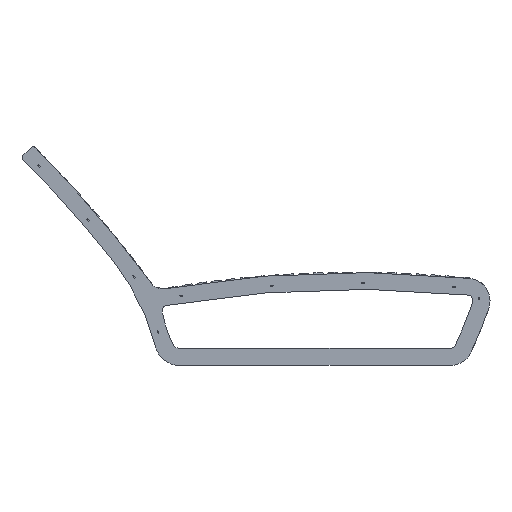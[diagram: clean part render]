
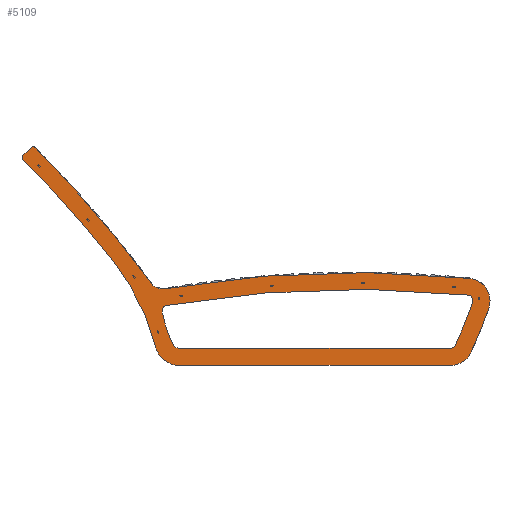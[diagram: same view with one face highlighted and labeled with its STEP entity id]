
A CAD part, left-side view. The second image highlights one B-rep face of the part: STEP entity #5109.
In plain terms, the highlighted planar face has unit normal (-1, 0, 0) as drawn and (0, 0, -1) by its records, which use the part's own axes.
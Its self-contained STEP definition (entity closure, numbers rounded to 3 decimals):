
#343=FACE_BOUND('',#658,.T.);
#347=FACE_OUTER_BOUND('',#657,.T.);
#657=EDGE_LOOP('',(#3403,#3404,#3405,#3406,#3407,#3408,#3409,#3410,#3411,
#3412,#3413,#3414,#3415));
#658=EDGE_LOOP('',(#3416,#3417,#3418,#3419,#3420,#3421,#3422,#3423));
#971=LINE('',#7918,#1455);
#972=LINE('',#7928,#1456);
#973=LINE('',#7947,#1457);
#1455=VECTOR('',#6176,39.095);
#1456=VECTOR('',#6185,948.424);
#1457=VECTOR('',#6204,948.424);
#1939=CIRCLE('',#5532,79.639);
#1940=CIRCLE('',#5533,3960.);
#1941=CIRCLE('',#5534,45.001);
#1942=CIRCLE('',#5535,4085.806);
#1943=CIRCLE('',#5536,10.);
#1944=CIRCLE('',#5537,10.);
#1945=CIRCLE('',#5538,4025.806);
#1946=CIRCLE('',#5539,800.);
#1947=CIRCLE('',#5540,86.764);
#1948=CIRCLE('',#5541,79.721);
#1949=CIRCLE('',#5542,1960.);
#1950=CIRCLE('',#5543,26.764);
#1951=CIRCLE('',#5544,450.);
#1952=CIRCLE('',#5545,20.13);
#1953=CIRCLE('',#5546,3900.);
#1954=CIRCLE('',#5547,19.639);
#1955=CIRCLE('',#5548,1900.);
#1956=CIRCLE('',#5549,19.721);
#2199=VERTEX_POINT('',#7906);
#2200=VERTEX_POINT('',#7907);
#2201=VERTEX_POINT('',#7909);
#2202=VERTEX_POINT('',#7911);
#2203=VERTEX_POINT('',#7913);
#2204=VERTEX_POINT('',#7915);
#2205=VERTEX_POINT('',#7917);
#2206=VERTEX_POINT('',#7919);
#2207=VERTEX_POINT('',#7921);
#2208=VERTEX_POINT('',#7923);
#2209=VERTEX_POINT('',#7925);
#2210=VERTEX_POINT('',#7927);
#2211=VERTEX_POINT('',#7929);
#2212=VERTEX_POINT('',#7932);
#2213=VERTEX_POINT('',#7933);
#2214=VERTEX_POINT('',#7935);
#2215=VERTEX_POINT('',#7937);
#2216=VERTEX_POINT('',#7939);
#2217=VERTEX_POINT('',#7941);
#2218=VERTEX_POINT('',#7943);
#2219=VERTEX_POINT('',#7945);
#2655=EDGE_CURVE('',#2199,#2200,#1939,.T.);
#2656=EDGE_CURVE('',#2199,#2201,#1940,.T.);
#2657=EDGE_CURVE('',#2201,#2202,#1941,.T.);
#2658=EDGE_CURVE('',#2203,#2202,#1942,.T.);
#2659=EDGE_CURVE('',#2203,#2204,#1943,.T.);
#2660=EDGE_CURVE('',#2205,#2204,#971,.T.);
#2661=EDGE_CURVE('',#2206,#2205,#1944,.T.);
#2662=EDGE_CURVE('',#2206,#2207,#1945,.T.);
#2663=EDGE_CURVE('',#2207,#2208,#1946,.T.);
#2664=EDGE_CURVE('',#2209,#2208,#1947,.T.);
#2665=EDGE_CURVE('',#2210,#2209,#972,.T.);
#2666=EDGE_CURVE('',#2211,#2210,#1948,.T.);
#2667=EDGE_CURVE('',#2200,#2211,#1949,.T.);
#2668=EDGE_CURVE('',#2212,#2213,#1950,.T.);
#2669=EDGE_CURVE('',#2214,#2213,#1951,.F.);
#2670=EDGE_CURVE('',#2215,#2214,#1952,.F.);
#2671=EDGE_CURVE('',#2216,#2215,#1953,.F.);
#2672=EDGE_CURVE('',#2216,#2217,#1954,.T.);
#2673=EDGE_CURVE('',#2217,#2218,#1955,.T.);
#2674=EDGE_CURVE('',#2218,#2219,#1956,.T.);
#2675=EDGE_CURVE('',#2219,#2212,#973,.T.);
#3403=ORIENTED_EDGE('',*,*,#2655,.F.);
#3404=ORIENTED_EDGE('',*,*,#2656,.T.);
#3405=ORIENTED_EDGE('',*,*,#2657,.T.);
#3406=ORIENTED_EDGE('',*,*,#2658,.F.);
#3407=ORIENTED_EDGE('',*,*,#2659,.T.);
#3408=ORIENTED_EDGE('',*,*,#2660,.F.);
#3409=ORIENTED_EDGE('',*,*,#2661,.F.);
#3410=ORIENTED_EDGE('',*,*,#2662,.T.);
#3411=ORIENTED_EDGE('',*,*,#2663,.T.);
#3412=ORIENTED_EDGE('',*,*,#2664,.F.);
#3413=ORIENTED_EDGE('',*,*,#2665,.F.);
#3414=ORIENTED_EDGE('',*,*,#2666,.F.);
#3415=ORIENTED_EDGE('',*,*,#2667,.F.);
#3416=ORIENTED_EDGE('',*,*,#2668,.T.);
#3417=ORIENTED_EDGE('',*,*,#2669,.F.);
#3418=ORIENTED_EDGE('',*,*,#2670,.F.);
#3419=ORIENTED_EDGE('',*,*,#2671,.F.);
#3420=ORIENTED_EDGE('',*,*,#2672,.T.);
#3421=ORIENTED_EDGE('',*,*,#2673,.T.);
#3422=ORIENTED_EDGE('',*,*,#2674,.T.);
#3423=ORIENTED_EDGE('',*,*,#2675,.T.);
#4899=PLANE('',#5531);
#5109=ADVANCED_FACE('',(#347,#343),#4899,.F.);
#5531=AXIS2_PLACEMENT_3D('',#7905,#6164,#6165);
#5532=AXIS2_PLACEMENT_3D('',#7908,#6166,#6167);
#5533=AXIS2_PLACEMENT_3D('',#7910,#6168,#6169);
#5534=AXIS2_PLACEMENT_3D('',#7912,#6170,#6171);
#5535=AXIS2_PLACEMENT_3D('',#7914,#6172,#6173);
#5536=AXIS2_PLACEMENT_3D('',#7916,#6174,#6175);
#5537=AXIS2_PLACEMENT_3D('',#7920,#6177,#6178);
#5538=AXIS2_PLACEMENT_3D('',#7922,#6179,#6180);
#5539=AXIS2_PLACEMENT_3D('',#7924,#6181,#6182);
#5540=AXIS2_PLACEMENT_3D('',#7926,#6183,#6184);
#5541=AXIS2_PLACEMENT_3D('',#7930,#6186,#6187);
#5542=AXIS2_PLACEMENT_3D('',#7931,#6188,#6189);
#5543=AXIS2_PLACEMENT_3D('',#7934,#6190,#6191);
#5544=AXIS2_PLACEMENT_3D('',#7936,#6192,#6193);
#5545=AXIS2_PLACEMENT_3D('',#7938,#6194,#6195);
#5546=AXIS2_PLACEMENT_3D('',#7940,#6196,#6197);
#5547=AXIS2_PLACEMENT_3D('',#7942,#6198,#6199);
#5548=AXIS2_PLACEMENT_3D('',#7944,#6200,#6201);
#5549=AXIS2_PLACEMENT_3D('',#7946,#6202,#6203);
#6164=DIRECTION('center_axis',(0.,0.,1.));
#6165=DIRECTION('ref_axis',(1.,0.,0.));
#6166=DIRECTION('center_axis',(0.,0.,1.));
#6167=DIRECTION('ref_axis',(1.,0.,0.));
#6168=DIRECTION('center_axis',(0.,0.,-1.));
#6169=DIRECTION('ref_axis',(-1.,0.,0.));
#6170=DIRECTION('center_axis',(0.,0.,1.));
#6171=DIRECTION('ref_axis',(1.,0.,0.));
#6172=DIRECTION('center_axis',(0.,0.,1.));
#6173=DIRECTION('ref_axis',(1.,0.,0.));
#6174=DIRECTION('center_axis',(0.,0.,-1.));
#6175=DIRECTION('ref_axis',(-1.,0.,0.));
#6176=DIRECTION('',(0.736,-0.677,0.));
#6177=DIRECTION('center_axis',(0.,0.,1.));
#6178=DIRECTION('ref_axis',(1.,0.,0.));
#6179=DIRECTION('center_axis',(0.,0.,1.));
#6180=DIRECTION('ref_axis',(1.,0.,0.));
#6181=DIRECTION('center_axis',(0.,0.,1.));
#6182=DIRECTION('ref_axis',(1.,0.,0.));
#6183=DIRECTION('center_axis',(0.,0.,1.));
#6184=DIRECTION('ref_axis',(1.,0.,0.));
#6185=DIRECTION('',(-1.,0.,0.));
#6186=DIRECTION('center_axis',(0.,0.,1.));
#6187=DIRECTION('ref_axis',(1.,0.,0.));
#6188=DIRECTION('center_axis',(0.,0.,1.));
#6189=DIRECTION('ref_axis',(1.,0.,0.));
#6190=DIRECTION('center_axis',(0.,0.,1.));
#6191=DIRECTION('ref_axis',(1.,0.,0.));
#6192=DIRECTION('center_axis',(0.,0.,1.));
#6193=DIRECTION('ref_axis',(1.,0.,0.));
#6194=DIRECTION('center_axis',(0.,0.,1.));
#6195=DIRECTION('ref_axis',(1.,0.,0.));
#6196=DIRECTION('center_axis',(0.,0.,1.));
#6197=DIRECTION('ref_axis',(1.,0.,0.));
#6198=DIRECTION('center_axis',(0.,0.,1.));
#6199=DIRECTION('ref_axis',(1.,0.,0.));
#6200=DIRECTION('center_axis',(0.,0.,1.));
#6201=DIRECTION('ref_axis',(1.,0.,0.));
#6202=DIRECTION('center_axis',(0.,0.,1.));
#6203=DIRECTION('ref_axis',(1.,0.,0.));
#6204=DIRECTION('',(-1.,0.,0.));
#7905=CARTESIAN_POINT('Origin',(704.267,169.014,0.));
#7906=CARTESIAN_POINT('',(712.778,89.831,0.));
#7907=CARTESIAN_POINT('',(779.749,194.41,0.));
#7908=CARTESIAN_POINT('Origin',(704.267,169.014,0.));
#7909=CARTESIAN_POINT('',(-356.822,126.239,0.));
#7910=CARTESIAN_POINT('Origin',(311.456,4029.443,0.));
#7911=CARTESIAN_POINT('',(-400.741,108.446,0.));
#7912=CARTESIAN_POINT('Origin',(-364.416,81.883,0.));
#7913=CARTESIAN_POINT('',(-808.564,-367.746,0.));
#7914=CARTESIAN_POINT('Origin',(-3698.779,2520.24,0.));
#7915=CARTESIAN_POINT('',(-822.41,-368.035,0.));
#7916=CARTESIAN_POINT('Origin',(-815.638,-360.677,0.));
#7917=CARTESIAN_POINT('',(-851.175,-341.559,0.));
#7918=CARTESIAN_POINT('',(-851.175,-341.559,0.));
#7919=CARTESIAN_POINT('',(-851.475,-327.132,0.));
#7920=CARTESIAN_POINT('Origin',(-844.403,-334.201,0.));
#7921=CARTESIAN_POINT('',(-533.734,31.022,0.));
#7922=CARTESIAN_POINT('Origin',(-3698.779,2518.913,0.));
#7923=CARTESIAN_POINT('',(-387.203,328.874,0.));
#7924=CARTESIAN_POINT('Origin',(-1162.686,525.411,0.));
#7925=CARTESIAN_POINT('',(-303.098,394.323,0.));
#7926=CARTESIAN_POINT('Origin',(-303.098,307.559,0.));
#7927=CARTESIAN_POINT('',(645.325,394.323,0.));
#7928=CARTESIAN_POINT('',(645.325,394.323,0.));
#7929=CARTESIAN_POINT('',(717.929,347.534,0.));
#7930=CARTESIAN_POINT('Origin',(645.328,314.602,0.));
#7931=CARTESIAN_POINT('Origin',(-1067.019,-462.133,0.));
#7932=CARTESIAN_POINT('',(-303.098,334.323,0.));
#7933=CARTESIAN_POINT('',(-327.299,318.988,0.));
#7934=CARTESIAN_POINT('Origin',(-303.098,307.559,0.));
#7935=CARTESIAN_POINT('',(-363.103,207.502,0.));
#7936=CARTESIAN_POINT('Origin',(79.604,126.816,0.));
#7937=CARTESIAN_POINT('',(-346.696,184.051,0.));
#7938=CARTESIAN_POINT('Origin',(-343.299,203.892,0.));
#7939=CARTESIAN_POINT('',(706.698,148.195,0.));
#7940=CARTESIAN_POINT('Origin',(311.456,4028.116,0.));
#7941=CARTESIAN_POINT('',(723.212,174.312,0.));
#7942=CARTESIAN_POINT('Origin',(704.707,167.733,0.));
#7943=CARTESIAN_POINT('',(663.285,322.748,0.));
#7944=CARTESIAN_POINT('Origin',(-1067.022,-462.133,0.));
#7945=CARTESIAN_POINT('',(645.325,334.323,0.));
#7946=CARTESIAN_POINT('Origin',(645.325,314.602,0.));
#7947=CARTESIAN_POINT('',(645.325,334.323,0.));
